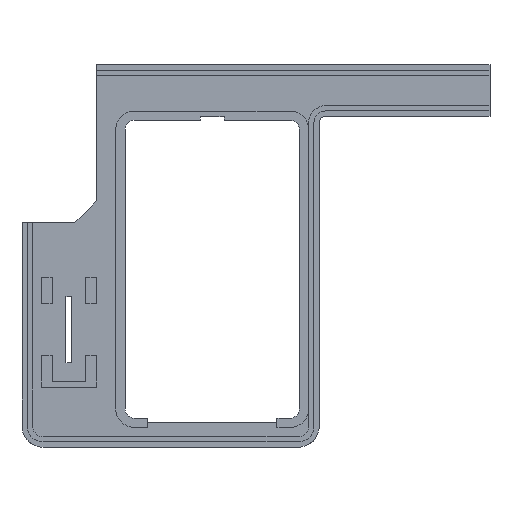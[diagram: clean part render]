
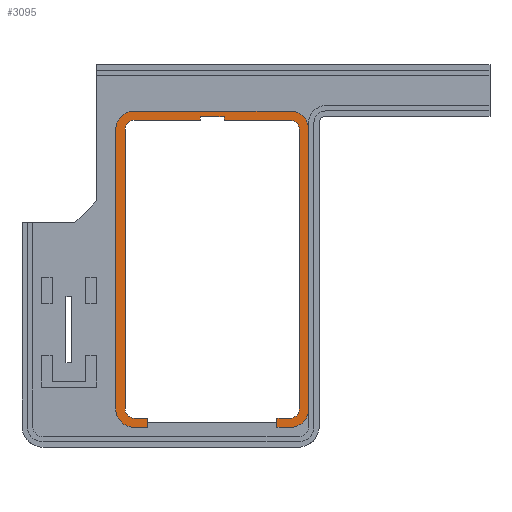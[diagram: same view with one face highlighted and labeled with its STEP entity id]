
A CAD part, top view. The second image highlights one B-rep face of the part: STEP entity #3095.
In plain terms, the highlighted planar face has unit normal (0, 0, 1).
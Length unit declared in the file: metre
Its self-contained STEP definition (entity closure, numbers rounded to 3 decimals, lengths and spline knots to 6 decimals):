
#75=CIRCLE('',#3312,0.0035);
#76=CIRCLE('',#3313,0.0035);
#77=CIRCLE('',#3314,0.007);
#78=CIRCLE('',#3315,0.007);
#79=CIRCLE('',#3316,0.007);
#80=CIRCLE('',#3317,0.007);
#81=CIRCLE('',#3318,0.0035);
#82=CIRCLE('',#3319,0.0035);
#289=ORIENTED_EDGE('',*,*,#1111,.T.);
#290=ORIENTED_EDGE('',*,*,#1171,.T.);
#291=ORIENTED_EDGE('',*,*,#1172,.F.);
#292=ORIENTED_EDGE('',*,*,#1173,.T.);
#293=ORIENTED_EDGE('',*,*,#1174,.F.);
#294=ORIENTED_EDGE('',*,*,#1175,.T.);
#295=ORIENTED_EDGE('',*,*,#1176,.T.);
#296=ORIENTED_EDGE('',*,*,#1177,.F.);
#297=ORIENTED_EDGE('',*,*,#1178,.F.);
#298=ORIENTED_EDGE('',*,*,#1179,.F.);
#299=ORIENTED_EDGE('',*,*,#1078,.F.);
#300=ORIENTED_EDGE('',*,*,#1180,.F.);
#301=ORIENTED_EDGE('',*,*,#1116,.T.);
#302=ORIENTED_EDGE('',*,*,#1181,.F.);
#303=ORIENTED_EDGE('',*,*,#1182,.F.);
#304=ORIENTED_EDGE('',*,*,#1183,.F.);
#305=ORIENTED_EDGE('',*,*,#1184,.F.);
#306=ORIENTED_EDGE('',*,*,#1185,.F.);
#307=ORIENTED_EDGE('',*,*,#1186,.T.);
#308=ORIENTED_EDGE('',*,*,#1187,.T.);
#309=ORIENTED_EDGE('',*,*,#1188,.T.);
#310=ORIENTED_EDGE('',*,*,#1189,.T.);
#311=ORIENTED_EDGE('',*,*,#1190,.F.);
#312=ORIENTED_EDGE('',*,*,#1191,.F.);
#1078=EDGE_CURVE('',#1528,#1529,#1821,.T.);
#1111=EDGE_CURVE('',#1557,#1556,#1846,.T.);
#1116=EDGE_CURVE('',#1560,#1561,#1851,.T.);
#1171=EDGE_CURVE('',#1556,#1602,#1893,.T.);
#1172=EDGE_CURVE('',#1603,#1602,#1894,.T.);
#1173=EDGE_CURVE('',#1603,#1604,#75,.T.);
#1174=EDGE_CURVE('',#1605,#1604,#1895,.T.);
#1175=EDGE_CURVE('',#1605,#1606,#76,.T.);
#1176=EDGE_CURVE('',#1606,#1607,#1896,.T.);
#1177=EDGE_CURVE('',#1608,#1607,#1897,.T.);
#1178=EDGE_CURVE('',#1609,#1608,#1898,.T.);
#1179=EDGE_CURVE('',#1529,#1609,#77,.T.);
#1180=EDGE_CURVE('',#1560,#1528,#78,.T.);
#1181=EDGE_CURVE('',#1610,#1561,#79,.T.);
#1182=EDGE_CURVE('',#1611,#1610,#1899,.T.);
#1183=EDGE_CURVE('',#1612,#1611,#80,.T.);
#1184=EDGE_CURVE('',#1613,#1612,#1900,.T.);
#1185=EDGE_CURVE('',#1614,#1613,#1901,.T.);
#1186=EDGE_CURVE('',#1614,#1615,#1902,.T.);
#1187=EDGE_CURVE('',#1615,#1616,#81,.T.);
#1188=EDGE_CURVE('',#1616,#1617,#1903,.T.);
#1189=EDGE_CURVE('',#1617,#1618,#82,.T.);
#1190=EDGE_CURVE('',#1619,#1618,#1904,.T.);
#1191=EDGE_CURVE('',#1557,#1619,#1905,.T.);
#1528=VERTEX_POINT('',#4477);
#1529=VERTEX_POINT('',#4479);
#1556=VERTEX_POINT('',#4541);
#1557=VERTEX_POINT('',#4543);
#1560=VERTEX_POINT('',#4553);
#1561=VERTEX_POINT('',#4554);
#1602=VERTEX_POINT('',#4660);
#1603=VERTEX_POINT('',#4662);
#1604=VERTEX_POINT('',#4664);
#1605=VERTEX_POINT('',#4666);
#1606=VERTEX_POINT('',#4668);
#1607=VERTEX_POINT('',#4670);
#1608=VERTEX_POINT('',#4672);
#1609=VERTEX_POINT('',#4674);
#1610=VERTEX_POINT('',#4678);
#1611=VERTEX_POINT('',#4680);
#1612=VERTEX_POINT('',#4682);
#1613=VERTEX_POINT('',#4684);
#1614=VERTEX_POINT('',#4686);
#1615=VERTEX_POINT('',#4688);
#1616=VERTEX_POINT('',#4690);
#1617=VERTEX_POINT('',#4692);
#1618=VERTEX_POINT('',#4694);
#1619=VERTEX_POINT('',#4696);
#1821=LINE('',#4478,#2221);
#1846=LINE('',#4542,#2246);
#1851=LINE('',#4552,#2251);
#1893=LINE('',#4659,#2293);
#1894=LINE('',#4661,#2294);
#1895=LINE('',#4665,#2295);
#1896=LINE('',#4669,#2296);
#1897=LINE('',#4671,#2297);
#1898=LINE('',#4673,#2298);
#1899=LINE('',#4679,#2299);
#1900=LINE('',#4683,#2300);
#1901=LINE('',#4685,#2301);
#1902=LINE('',#4687,#2302);
#1903=LINE('',#4691,#2303);
#1904=LINE('',#4695,#2304);
#1905=LINE('',#4697,#2305);
#2221=VECTOR('',#3581,1.);
#2246=VECTOR('',#3628,1.);
#2251=VECTOR('',#3637,1.);
#2293=VECTOR('',#3725,1.);
#2294=VECTOR('',#3726,1.);
#2295=VECTOR('',#3729,1.);
#2296=VECTOR('',#3732,1.);
#2297=VECTOR('',#3733,1.);
#2298=VECTOR('',#3734,1.);
#2299=VECTOR('',#3741,1.);
#2300=VECTOR('',#3744,1.);
#2301=VECTOR('',#3745,1.);
#2302=VECTOR('',#3746,1.);
#2303=VECTOR('',#3749,1.);
#2304=VECTOR('',#3752,1.);
#2305=VECTOR('',#3753,1.);
#2589=EDGE_LOOP('',(#289,#290,#291,#292,#293,#294,#295,#296,#297,#298,#299,
#300,#301,#302,#303,#304,#305,#306,#307,#308,#309,#310,#311,#312));
#2775=FACE_BOUND('',#2589,.T.);
#2955=PLANE('',#3311);
#3095=ADVANCED_FACE('',(#2775),#2955,.F.);
#3311=AXIS2_PLACEMENT_3D('',#4658,#3723,#3724);
#3312=AXIS2_PLACEMENT_3D('',#4663,#3727,#3728);
#3313=AXIS2_PLACEMENT_3D('',#4667,#3730,#3731);
#3314=AXIS2_PLACEMENT_3D('',#4675,#3735,#3736);
#3315=AXIS2_PLACEMENT_3D('',#4676,#3737,#3738);
#3316=AXIS2_PLACEMENT_3D('',#4677,#3739,#3740);
#3317=AXIS2_PLACEMENT_3D('',#4681,#3742,#3743);
#3318=AXIS2_PLACEMENT_3D('',#4689,#3747,#3748);
#3319=AXIS2_PLACEMENT_3D('',#4693,#3750,#3751);
#3581=DIRECTION('',(0.,-1.,0.));
#3628=DIRECTION('',(1.,0.,0.));
#3637=DIRECTION('',(-1.,0.,0.));
#3723=DIRECTION('',(0.,0.,-1.));
#3724=DIRECTION('',(1.,0.,0.));
#3725=DIRECTION('',(0.,-1.,0.));
#3726=DIRECTION('',(-1.,0.,0.));
#3727=DIRECTION('',(0.,0.,-1.));
#3728=DIRECTION('',(-1.,0.,0.));
#3729=DIRECTION('',(0.,1.,0.));
#3730=DIRECTION('',(0.,0.,-1.));
#3731=DIRECTION('',(-1.,0.,0.));
#3732=DIRECTION('',(-1.,0.,0.));
#3733=DIRECTION('',(0.,1.,0.));
#3734=DIRECTION('',(-1.,0.,0.));
#3735=DIRECTION('',(0.,0.,-1.));
#3736=DIRECTION('',(-1.,0.,0.));
#3737=DIRECTION('',(0.,0.,-1.));
#3738=DIRECTION('',(-1.,0.,0.));
#3739=DIRECTION('',(0.,0.,-1.));
#3740=DIRECTION('',(-1.,0.,0.));
#3741=DIRECTION('',(0.,1.,0.));
#3742=DIRECTION('',(0.,0.,-1.));
#3743=DIRECTION('',(-1.,0.,0.));
#3744=DIRECTION('',(-1.,0.,0.));
#3745=DIRECTION('',(0.,-1.,0.));
#3746=DIRECTION('',(-1.,0.,0.));
#3747=DIRECTION('',(0.,0.,-1.));
#3748=DIRECTION('',(-1.,0.,0.));
#3749=DIRECTION('',(0.,1.,0.));
#3750=DIRECTION('',(0.,0.,-1.));
#3751=DIRECTION('',(-1.,0.,0.));
#3752=DIRECTION('',(-1.,0.,0.));
#3753=DIRECTION('',(0.,-1.,0.));
#4477=CARTESIAN_POINT('',(-0.1565,0.04165,-0.01675));
#4478=CARTESIAN_POINT('',(-0.1565,-0.011225,-0.01675));
#4479=CARTESIAN_POINT('',(-0.1565,-0.0641,-0.01675));
#4541=CARTESIAN_POINT('',(-0.1885,0.0465,-0.01675));
#4542=CARTESIAN_POINT('',(-0.122,0.0465,-0.01675));
#4543=CARTESIAN_POINT('',(-0.1975,0.0465,-0.01675));
#4552=CARTESIAN_POINT('',(-0.1945,0.04865,-0.01675));
#4553=CARTESIAN_POINT('',(-0.1635,0.04865,-0.01675));
#4554=CARTESIAN_POINT('',(-0.2225,0.04865,-0.01675));
#4658=CARTESIAN_POINT('',(-0.122,-0.009295,-0.01675));
#4659=CARTESIAN_POINT('',(-0.1885,-0.009295,-0.01675));
#4660=CARTESIAN_POINT('',(-0.1885,0.04515,-0.01675));
#4661=CARTESIAN_POINT('',(-0.1915,0.04515,-0.01675));
#4662=CARTESIAN_POINT('',(-0.1635,0.04515,-0.01675));
#4663=CARTESIAN_POINT('',(-0.1635,0.04165,-0.01675));
#4664=CARTESIAN_POINT('',(-0.16,0.04165,-0.01675));
#4665=CARTESIAN_POINT('',(-0.16,-0.011225,-0.01675));
#4666=CARTESIAN_POINT('',(-0.16,-0.0641,-0.01675));
#4667=CARTESIAN_POINT('',(-0.1635,-0.0641,-0.01675));
#4668=CARTESIAN_POINT('',(-0.1635,-0.0676,-0.01675));
#4669=CARTESIAN_POINT('',(-0.1915,-0.0676,-0.01675));
#4670=CARTESIAN_POINT('',(-0.1685,-0.0676,-0.01675));
#4671=CARTESIAN_POINT('',(-0.1685,-0.009295,-0.01675));
#4672=CARTESIAN_POINT('',(-0.1685,-0.0711,-0.01675));
#4673=CARTESIAN_POINT('',(-0.1915,-0.0711,-0.01675));
#4674=CARTESIAN_POINT('',(-0.1635,-0.0711,-0.01675));
#4675=CARTESIAN_POINT('',(-0.1635,-0.0641,-0.01675));
#4676=CARTESIAN_POINT('',(-0.1635,0.04165,-0.01675));
#4677=CARTESIAN_POINT('',(-0.2225,0.04165,-0.01675));
#4678=CARTESIAN_POINT('',(-0.2295,0.04165,-0.01675));
#4679=CARTESIAN_POINT('',(-0.2295,-0.011225,-0.01675));
#4680=CARTESIAN_POINT('',(-0.2295,-0.0641,-0.01675));
#4681=CARTESIAN_POINT('',(-0.2225,-0.0641,-0.01675));
#4682=CARTESIAN_POINT('',(-0.2225,-0.0711,-0.01675));
#4683=CARTESIAN_POINT('',(-0.1945,-0.0711,-0.01675));
#4684=CARTESIAN_POINT('',(-0.2175,-0.0711,-0.01675));
#4685=CARTESIAN_POINT('',(-0.2175,-0.009295,-0.01675));
#4686=CARTESIAN_POINT('',(-0.2175,-0.0676,-0.01675));
#4687=CARTESIAN_POINT('',(-0.1945,-0.0676,-0.01675));
#4688=CARTESIAN_POINT('',(-0.2225,-0.0676,-0.01675));
#4689=CARTESIAN_POINT('',(-0.2225,-0.0641,-0.01675));
#4690=CARTESIAN_POINT('',(-0.226,-0.0641,-0.01675));
#4691=CARTESIAN_POINT('',(-0.226,-0.011225,-0.01675));
#4692=CARTESIAN_POINT('',(-0.226,0.04165,-0.01675));
#4693=CARTESIAN_POINT('',(-0.2225,0.04165,-0.01675));
#4694=CARTESIAN_POINT('',(-0.2225,0.04515,-0.01675));
#4695=CARTESIAN_POINT('',(-0.1945,0.04515,-0.01675));
#4696=CARTESIAN_POINT('',(-0.1975,0.04515,-0.01675));
#4697=CARTESIAN_POINT('',(-0.1975,-0.009295,-0.01675));
